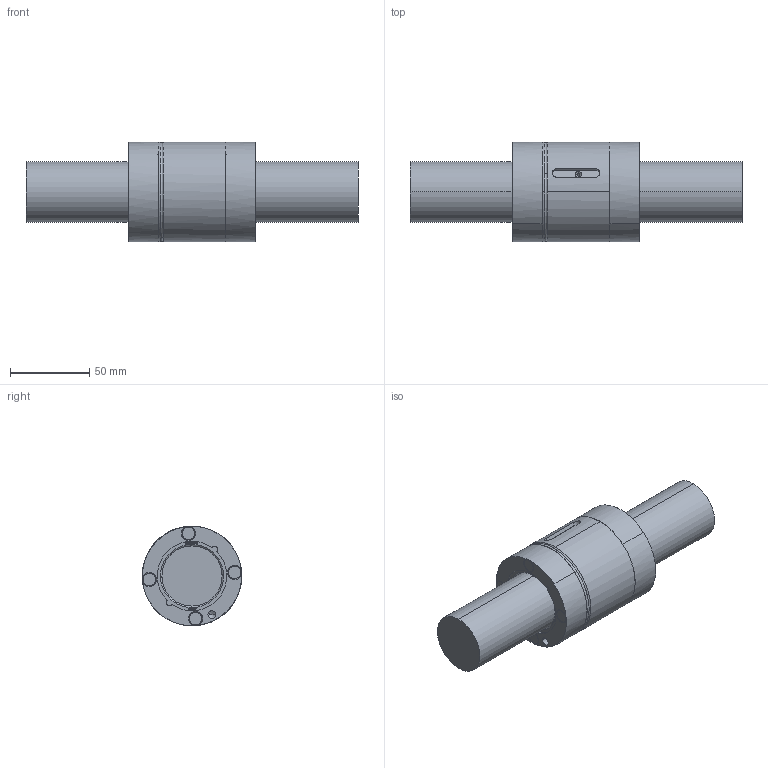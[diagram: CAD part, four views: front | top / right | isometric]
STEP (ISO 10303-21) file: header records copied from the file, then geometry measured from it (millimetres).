
FILE_DESCRIPTION(('Creo Elements/Direct Modeling STEP Export'),'2;1');
FILE_NAME('HSB-KGT-MM-4020RH-2g.stp','2026-07-03T12:09:15',(''),(''),'Creo Elements/Direct Modeling STEP processor for AP214 (Solid Model)','Creo Elements/Direct Modeling 20.1D 10-Oct-2020 (C) Parametric Technology GmbH','');
FILE_SCHEMA(('AUTOMOTIVE_DESIGN { 1 0 10303 214 1 1 1 1 }'));
Length unit declared in the file: millimetre
Products named in the file (3): KGS-4020RH-2g_16637; HSB-KGM-M-4020RH-2g_30867; HSB-KGT-MM-4020RH-2g
Assembly tree (2 placements, depth 2):
  HSB-KGT-MM-4020RH-2g
    HSB-KGM-M-4020RH-2g_30867
    KGS-4020RH-2g_16637
Bounding box: 210 x 63 x 63 mm (x, y, z)
Volume: 393799.5 mm3; surface area: 57444.6 mm2
Topology: 2 solids, 2 shells, 1051 faces, 3041 edges, 2025 vertices
Faces by surface type: plane 979, cylinder 44, cone 26, torus 2
Entity records: 34492 total; most frequent: CARTESIAN_POINT 6873, ORIENTED_EDGE 6074, DIRECTION 5106, EDGE_CURVE 3037, VECTOR 2872, LINE 2872, VERTEX_POINT 2025, AXIS2_PLACEMENT_3D 1117
